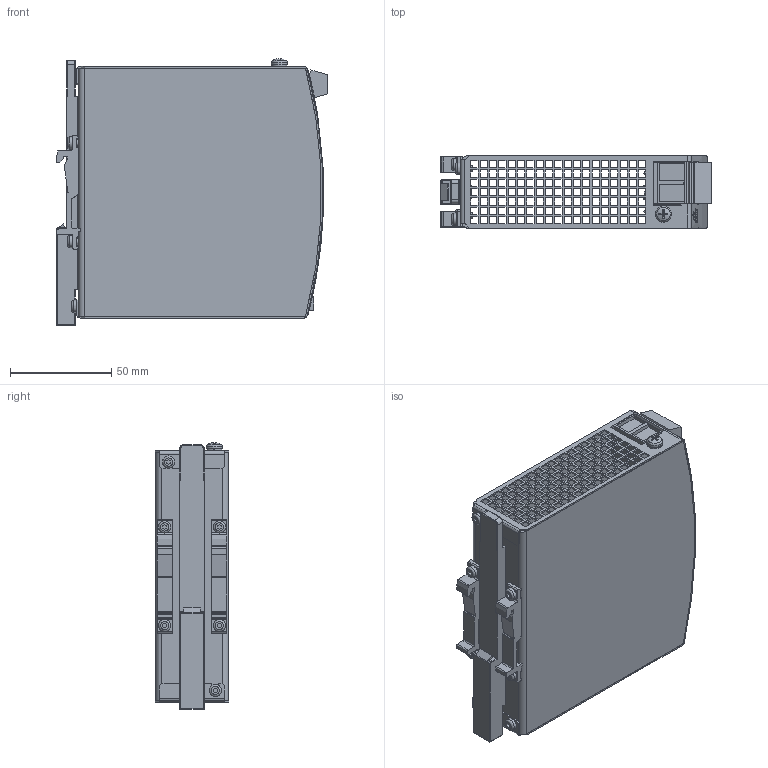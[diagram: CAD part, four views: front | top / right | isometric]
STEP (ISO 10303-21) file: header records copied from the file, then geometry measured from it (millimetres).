
FILE_DESCRIPTION((''),'2;1');
FILE_NAME('C:\Users\rahns\Desktop\Marketing\SD1YR40-242SR1_SC_2014-05-23.stp','2014-05-23T08:35:08',('rahns'),(''),'Autodesk Inventor 2009','Autodesk Inventor 2009','');
FILE_SCHEMA(('AUTOMOTIVE_DESIGN { 1 0 10303 214 1 1 1 1 }'));
Length unit declared in the file: millimetre
Products named in the file (11): 401; HOUSING BODY 401; HOUSING COVER 401; FRONTFOIL 401; SLIDER; T HOLDER; SCREW 3x6; SCREW 4x8; WASHER 4; XT-LP2BK-D5; TERMINAL 2P D1
Assembly tree (17 placements, depth 2):
  401
    HOUSING BODY 401
    HOUSING COVER 401
    FRONTFOIL 401
    SLIDER
    T HOLDER  x2
    SCREW 3x6  x6
    SCREW 4x8
    WASHER 4
    XT-LP2BK-D5
    TERMINAL 2P D1  x2
Bounding box: 133.5 x 36 x 131.47 mm (x, y, z)
Volume: 85025.1 mm3; surface area: 110596.5 mm2
Topology: 17 solids, 17 shells, 2448 faces, 6891 edges, 4590 vertices
Faces by surface type: plane 1917, bspline 287, cylinder 201, cone 18, torus 16, sphere 9
Full cylindrical faces by diameter (mm): 0.5 x1, 2.45 x4, 3 x6, 3.1 x4, 3.621 x1, 4 x1, 4.5 x1, 5.15 x4, 6 x6, 7 x2
Entity records: 78491 total; most frequent: CARTESIAN_POINT 20372, ORIENTED_EDGE 12576, DIRECTION 10255, EDGE_CURVE 6288, VECTOR 5033, LINE 5033, VERTEX_POINT 4198, EDGE_LOOP 2890
